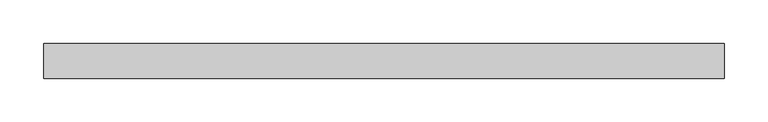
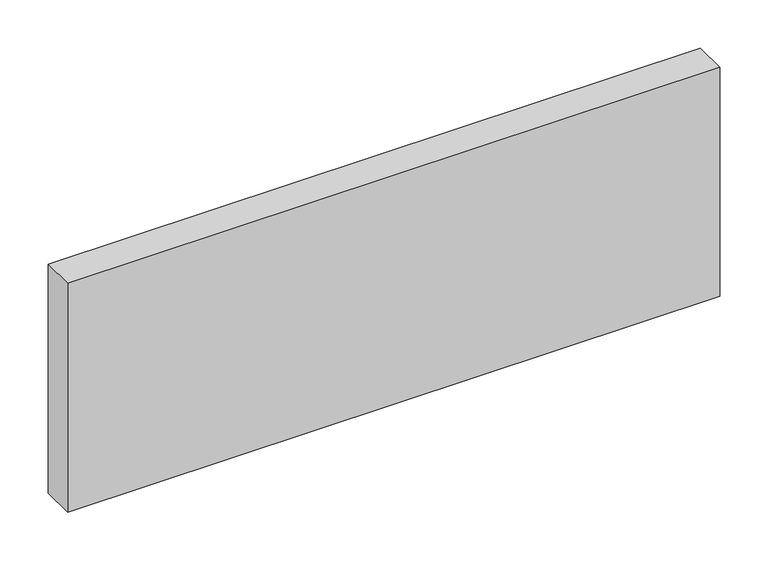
"""IFC4 building model written with IfcOpenShell, lengths in millimetres: plate geometry, Panneau système vide : Epaiss. 4cm."""

from ifc_helpers import new_model, si_unit, origin, origin_with_axes, place, context, project, spatial, polyline, outline, extrude, source, transform, mapped, element, save


def plate_85cddbb8(model_context):
    return source(origin(), model_context, "Body", "SweptSolid", [
        extrude(outline(polyline([(390.15, -20.0), (-390.15, -20.0), (-390.15, 20.0), (390.15, 20.0), (390.15, -20.0)])), origin_with_axes(), (0.0, 0.0, 1.0), 289.482842),
    ])


if __name__ == "__main__":
    model = new_model("IFC4")
    model_context = context("Model", 3, world=origin())
    ifc_project = project(units=[si_unit("LENGTHUNIT", "METRE", prefix="MILLI")], contexts=[model_context])
    site = spatial("IfcSite", under=ifc_project)
    building = spatial("IfcBuilding", under=site)
    placement = place(None, origin())
    plate_shape = plate_85cddbb8(model_context)
    element("IfcPlate", 1, ObjectType="Panneau système vide : Epaiss. 4cm", at=placement, inside=building, context=model_context, shape_type="MappedRepresentation", body=[
        mapped(plate_shape, transform((0.0, 0.0, 0.0), x_axis=(1.0, 0.0, 0.0), y_axis=(0.0, 1.0, 0.0), z_axis=(0.0, 0.0, 1.0))),
    ])
    save(model, "model.ifc")
